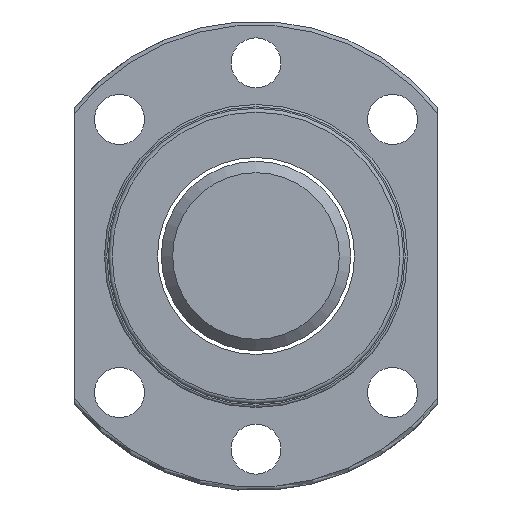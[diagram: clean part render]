
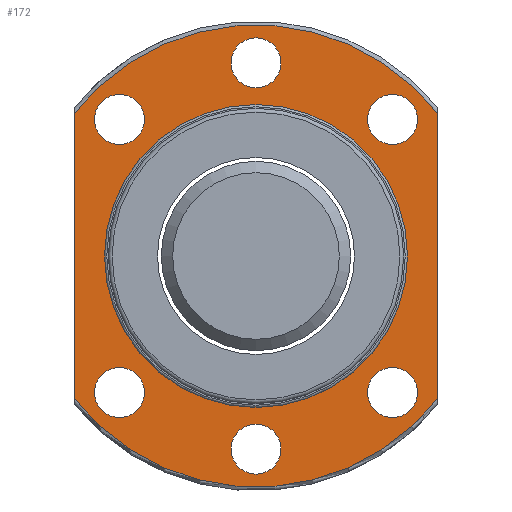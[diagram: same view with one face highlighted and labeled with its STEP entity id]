
A CAD part, left-side view. The second image highlights one B-rep face of the part: STEP entity #172.
In plain terms, the highlighted planar face has unit normal (-1, 0, 0).
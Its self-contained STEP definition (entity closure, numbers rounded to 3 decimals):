
#99=LINE('',#1176,#107);
#100=LINE('',#1178,#108);
#107=VECTOR('',#891,1.);
#108=VECTOR('',#892,1.);
#172=ADVANCED_FACE('',(#234,#261,#262,#263,#264,#265,#266,#267),#215,.T.);
#215=PLANE('',#776);
#234=FACE_OUTER_BOUND('',#342,.T.);
#261=FACE_BOUND('',#343,.T.);
#262=FACE_BOUND('',#344,.T.);
#263=FACE_BOUND('',#345,.T.);
#264=FACE_BOUND('',#346,.T.);
#265=FACE_BOUND('',#347,.T.);
#266=FACE_BOUND('',#348,.T.);
#267=FACE_BOUND('',#349,.T.);
#342=EDGE_LOOP('',(#451,#452,#453,#454));
#343=EDGE_LOOP('',(#455));
#344=EDGE_LOOP('',(#456));
#345=EDGE_LOOP('',(#457));
#346=EDGE_LOOP('',(#458));
#347=EDGE_LOOP('',(#459));
#348=EDGE_LOOP('',(#460));
#349=EDGE_LOOP('',(#461));
#451=ORIENTED_EDGE('',*,*,#643,.F.);
#452=ORIENTED_EDGE('',*,*,#636,.F.);
#453=ORIENTED_EDGE('',*,*,#644,.T.);
#454=ORIENTED_EDGE('',*,*,#645,.F.);
#455=ORIENTED_EDGE('',*,*,#646,.T.);
#456=ORIENTED_EDGE('',*,*,#647,.F.);
#457=ORIENTED_EDGE('',*,*,#648,.F.);
#458=ORIENTED_EDGE('',*,*,#649,.F.);
#459=ORIENTED_EDGE('',*,*,#650,.F.);
#460=ORIENTED_EDGE('',*,*,#651,.F.);
#461=ORIENTED_EDGE('',*,*,#652,.F.);
#573=VERTEX_POINT('',#1103);
#575=VERTEX_POINT('',#1125);
#580=VERTEX_POINT('',#1177);
#581=VERTEX_POINT('',#1179);
#582=VERTEX_POINT('',#1182);
#583=VERTEX_POINT('',#1184);
#584=VERTEX_POINT('',#1186);
#585=VERTEX_POINT('',#1188);
#586=VERTEX_POINT('',#1190);
#587=VERTEX_POINT('',#1192);
#588=VERTEX_POINT('',#1194);
#636=EDGE_CURVE('',#575,#573,#703,.T.);
#643=EDGE_CURVE('',#573,#580,#99,.T.);
#644=EDGE_CURVE('',#575,#581,#100,.T.);
#645=EDGE_CURVE('',#580,#581,#706,.T.);
#646=EDGE_CURVE('',#582,#582,#707,.T.);
#647=EDGE_CURVE('',#583,#583,#708,.T.);
#648=EDGE_CURVE('',#584,#584,#709,.T.);
#649=EDGE_CURVE('',#585,#585,#710,.T.);
#650=EDGE_CURVE('',#586,#586,#711,.T.);
#651=EDGE_CURVE('',#587,#587,#712,.T.);
#652=EDGE_CURVE('',#588,#588,#713,.T.);
#703=CIRCLE('',#762,30.5);
#706=CIRCLE('',#768,30.5);
#707=CIRCLE('',#769,20.);
#708=CIRCLE('',#770,3.3);
#709=CIRCLE('',#771,3.3);
#710=CIRCLE('',#772,3.3);
#711=CIRCLE('',#773,3.3);
#712=CIRCLE('',#774,3.3);
#713=CIRCLE('',#775,3.3);
#762=AXIS2_PLACEMENT_3D('',#1126,#877,#878);
#768=AXIS2_PLACEMENT_3D('',#1180,#893,#894);
#769=AXIS2_PLACEMENT_3D('',#1181,#895,#896);
#770=AXIS2_PLACEMENT_3D('',#1183,#897,#898);
#771=AXIS2_PLACEMENT_3D('',#1185,#899,#900);
#772=AXIS2_PLACEMENT_3D('',#1187,#901,#902);
#773=AXIS2_PLACEMENT_3D('',#1189,#903,#904);
#774=AXIS2_PLACEMENT_3D('',#1191,#905,#906);
#775=AXIS2_PLACEMENT_3D('',#1193,#907,#908);
#776=AXIS2_PLACEMENT_3D('',#1195,#909,#910);
#877=DIRECTION('',(1.,0.,0.));
#878=DIRECTION('',(0.,1.,0.));
#891=DIRECTION('',(0.,0.,1.));
#892=DIRECTION('',(0.,0.,1.));
#893=DIRECTION('',(1.,0.,0.));
#894=DIRECTION('',(0.,1.,0.));
#895=DIRECTION('',(1.,0.,0.));
#896=DIRECTION('',(0.,1.,0.));
#897=DIRECTION('',(-1.,0.,0.));
#898=DIRECTION('',(0.,-1.,0.));
#899=DIRECTION('',(-1.,0.,0.));
#900=DIRECTION('',(0.,-1.,0.));
#901=DIRECTION('',(-1.,0.,0.));
#902=DIRECTION('',(0.,-1.,0.));
#903=DIRECTION('',(-1.,0.,0.));
#904=DIRECTION('',(0.,-1.,0.));
#905=DIRECTION('',(-1.,0.,0.));
#906=DIRECTION('',(0.,-1.,0.));
#907=DIRECTION('',(-1.,0.,0.));
#908=DIRECTION('',(0.,-1.,0.));
#909=DIRECTION('',(-1.,0.,0.));
#910=DIRECTION('',(0.,-1.,0.));
#1103=CARTESIAN_POINT('',(-25.,24.,-18.822));
#1125=CARTESIAN_POINT('',(-25.,-24.,-18.822));
#1126=CARTESIAN_POINT('',(-25.,0.,0.));
#1176=CARTESIAN_POINT('',(-25.,24.,0.));
#1177=CARTESIAN_POINT('',(-25.,24.,18.822));
#1178=CARTESIAN_POINT('',(-25.,-24.,0.));
#1179=CARTESIAN_POINT('',(-25.,-24.,18.822));
#1180=CARTESIAN_POINT('',(-25.,0.,0.));
#1181=CARTESIAN_POINT('',(-25.,0.,0.));
#1182=CARTESIAN_POINT('',(-25.,20.,0.));
#1183=CARTESIAN_POINT('',(-25.,18.031,18.031));
#1184=CARTESIAN_POINT('',(-25.,14.731,18.031));
#1185=CARTESIAN_POINT('',(-25.,-18.031,18.031));
#1186=CARTESIAN_POINT('',(-25.,-21.331,18.031));
#1187=CARTESIAN_POINT('',(-25.,-18.031,-18.031));
#1188=CARTESIAN_POINT('',(-25.,-21.331,-18.031));
#1189=CARTESIAN_POINT('',(-25.,18.031,-18.031));
#1190=CARTESIAN_POINT('',(-25.,14.731,-18.031));
#1191=CARTESIAN_POINT('',(-25.,0.,25.5));
#1192=CARTESIAN_POINT('',(-25.,-3.3,25.5));
#1193=CARTESIAN_POINT('',(-25.,0.,-25.5));
#1194=CARTESIAN_POINT('',(-25.,-3.3,-25.5));
#1195=CARTESIAN_POINT('',(-25.,25.25,0.));
